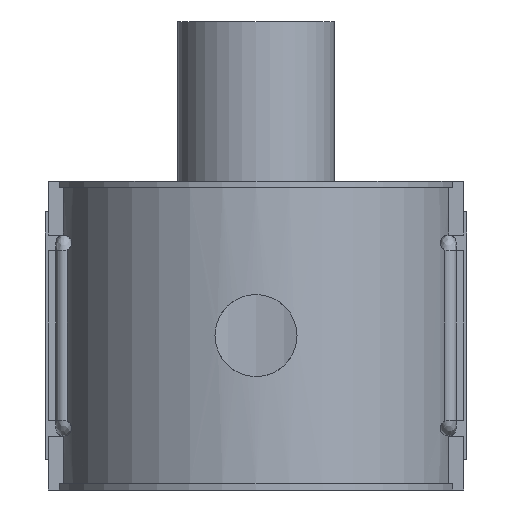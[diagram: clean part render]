
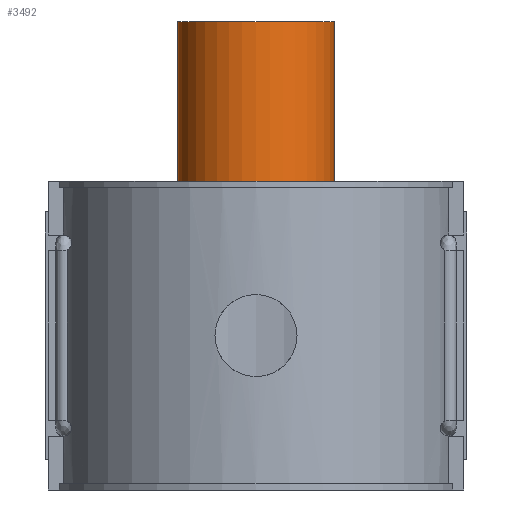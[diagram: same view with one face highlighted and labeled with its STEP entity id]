
A CAD part, front view. The second image highlights one B-rep face of the part: STEP entity #3492.
In plain terms, the highlighted cylindrical face has radius 30.05 mm (diameter 60.1 mm), a full revolution.
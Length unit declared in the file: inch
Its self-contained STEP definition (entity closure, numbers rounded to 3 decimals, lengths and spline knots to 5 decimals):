
#316=CIRCLE('',#3828,1.18307);
#317=CIRCLE('',#3829,1.18307);
#318=CIRCLE('',#3830,1.18307);
#319=CIRCLE('',#3831,1.18307);
#514=FACE_OUTER_BOUND('',#734,.T.);
#734=EDGE_LOOP('',(#3230,#3231,#3232,#3233,#3234,#3235));
#1047=LINE('',#7058,#1356);
#1356=VECTOR('',#4772,1.18307);
#1736=VERTEX_POINT('',#7053);
#1737=VERTEX_POINT('',#7054);
#1738=VERTEX_POINT('',#7057);
#1739=VERTEX_POINT('',#7059);
#2236=EDGE_CURVE('',#1736,#1737,#316,.T.);
#2237=EDGE_CURVE('',#1737,#1736,#317,.T.);
#2238=EDGE_CURVE('',#1737,#1738,#1047,.T.);
#2239=EDGE_CURVE('',#1738,#1739,#318,.T.);
#2240=EDGE_CURVE('',#1739,#1738,#319,.T.);
#3230=ORIENTED_EDGE('',*,*,#2236,.F.);
#3231=ORIENTED_EDGE('',*,*,#2237,.F.);
#3232=ORIENTED_EDGE('',*,*,#2238,.T.);
#3233=ORIENTED_EDGE('',*,*,#2239,.T.);
#3234=ORIENTED_EDGE('',*,*,#2240,.T.);
#3235=ORIENTED_EDGE('',*,*,#2238,.F.);
#3300=CYLINDRICAL_SURFACE('',#3827,1.18307);
#3492=ADVANCED_FACE('',(#514),#3300,.T.);
#3827=AXIS2_PLACEMENT_3D('',#7052,#4766,#4767);
#3828=AXIS2_PLACEMENT_3D('',#7055,#4768,#4769);
#3829=AXIS2_PLACEMENT_3D('',#7056,#4770,#4771);
#3830=AXIS2_PLACEMENT_3D('',#7060,#4773,#4774);
#3831=AXIS2_PLACEMENT_3D('',#7061,#4775,#4776);
#4766=DIRECTION('center_axis',(0.,0.,1.));
#4767=DIRECTION('ref_axis',(0.,-1.,0.));
#4768=DIRECTION('center_axis',(0.,0.,1.));
#4769=DIRECTION('ref_axis',(1.,0.,0.));
#4770=DIRECTION('center_axis',(0.,0.,1.));
#4771=DIRECTION('ref_axis',(1.,0.,0.));
#4772=DIRECTION('',(0.,0.,-1.));
#4773=DIRECTION('center_axis',(0.,0.,1.));
#4774=DIRECTION('ref_axis',(1.,0.,0.));
#4775=DIRECTION('center_axis',(0.,0.,1.));
#4776=DIRECTION('ref_axis',(1.,0.,0.));
#7052=CARTESIAN_POINT('Origin',(0.,4.9478,2.36));
#7053=CARTESIAN_POINT('',(0.,3.76472,4.72));
#7054=CARTESIAN_POINT('',(0.,6.13087,4.72));
#7055=CARTESIAN_POINT('Origin',(0.,4.9478,4.72));
#7056=CARTESIAN_POINT('Origin',(0.,4.9478,4.72));
#7057=CARTESIAN_POINT('',(0.,6.13087,0.));
#7058=CARTESIAN_POINT('',(0.,6.13087,2.36));
#7059=CARTESIAN_POINT('',(0.,3.76472,0.));
#7060=CARTESIAN_POINT('Origin',(0.,4.9478,0.));
#7061=CARTESIAN_POINT('Origin',(0.,4.9478,0.));
